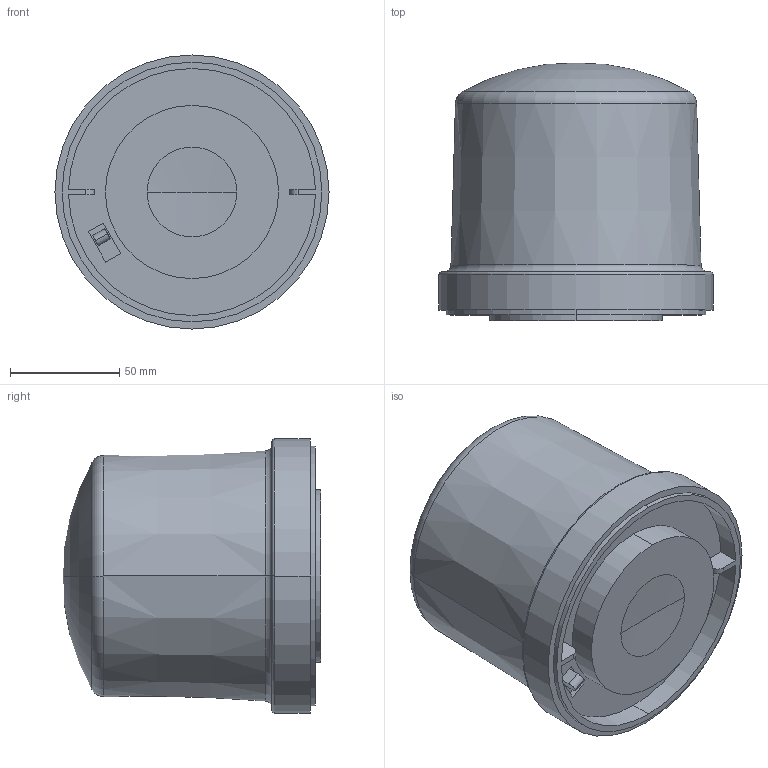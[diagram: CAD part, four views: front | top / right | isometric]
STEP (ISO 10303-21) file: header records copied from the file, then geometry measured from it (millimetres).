
FILE_DESCRIPTION (( 'STEP AP214' ), '1' );
FILE_NAME ('SL-360-M.STEP', '2015-10-08T13:53:58', ( '' ), ( '' ), 'SwSTEP 2.0', 'SolidWorks 2015', '' );
FILE_SCHEMA (( 'AUTOMOTIVE_DESIGN' ));
Length unit declared in the file: inch
Products named in the file (1): SL-360-M
Bounding box: 125.63 x 118.11 x 125.63 mm (x, y, z)
Volume: 306847.9 mm3; surface area: 127823.6 mm2
Topology: 2 solids, 2 shells, 55 faces, 124 edges, 77 vertices
Faces by surface type: plane 22, cylinder 15, torus 12, cone 4, sphere 2
Entity records: 1575 total; most frequent: DIRECTION 294, CARTESIAN_POINT 253, ORIENTED_EDGE 240, EDGE_CURVE 120, AXIS2_PLACEMENT_3D 118, VERTEX_POINT 77, EDGE_LOOP 63, CIRCLE 62
